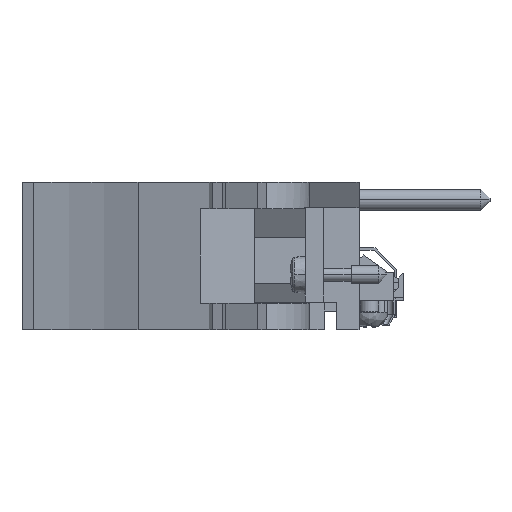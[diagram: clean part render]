
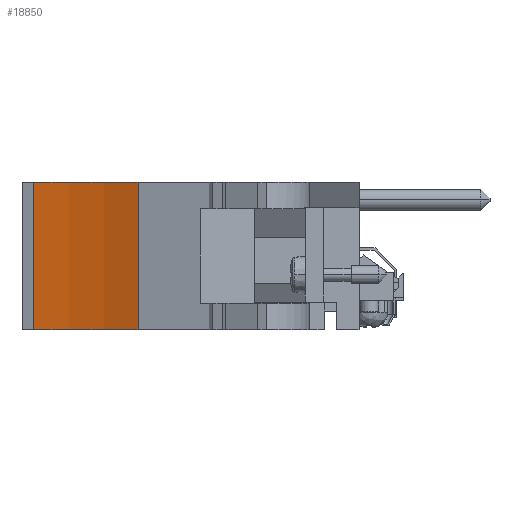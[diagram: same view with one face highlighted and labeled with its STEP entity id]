
A CAD part, front view. The second image highlights one B-rep face of the part: STEP entity #18850.
In plain terms, the highlighted cylindrical face has radius 51.46 mm (diameter 102.919 mm), a partial arc.
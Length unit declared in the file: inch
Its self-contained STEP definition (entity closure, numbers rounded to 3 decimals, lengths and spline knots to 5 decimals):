
#952=CARTESIAN_POINT('',(-1.97633,-5.95079,-0.093));
#953=DIRECTION('',(0.,0.,1.));
#954=DIRECTION('',(0.435,0.9,0.));
#955=AXIS2_PLACEMENT_3D('',#952,#953,#954);
#1157=CARTESIAN_POINT('',(-1.97633,-5.95079,0.695));
#1158=DIRECTION('',(0.,0.,1.));
#1159=DIRECTION('',(0.435,0.9,0.));
#1160=AXIS2_PLACEMENT_3D('',#1157,#1158,#1159);
#3177=DIRECTION('',(0.,0.,1.));
#3178=VECTOR('',#3177,0.788);
#3179=CARTESIAN_POINT('',(-1.09503,-4.12655,-0.093));
#3180=LINE('',#3179,#3178);
#3193=DIRECTION('',(0.,0.,1.));
#3194=VECTOR('',#3193,0.788);
#3195=CARTESIAN_POINT('',(-1.653,-3.95079,-0.093));
#3196=LINE('',#3195,#3194);
#14092=CARTESIAN_POINT('',(-1.09503,-4.12655,-0.093));
#14093=CARTESIAN_POINT('',(-1.653,-3.95079,-0.093));
#14094=VERTEX_POINT('',#14092);
#14095=VERTEX_POINT('',#14093);
#14096=CARTESIAN_POINT('',(-1.09503,-4.12655,0.695));
#14097=CARTESIAN_POINT('',(-1.653,-3.95079,0.695));
#14098=VERTEX_POINT('',#14096);
#14099=VERTEX_POINT('',#14097);
#18838=CARTESIAN_POINT('',(-1.97633,-5.95079,0.695));
#18839=DIRECTION('',(0.,0.,1.));
#18840=DIRECTION('',(0.,1.,0.));
#18841=AXIS2_PLACEMENT_3D('',#18838,#18839,#18840);
#18842=CYLINDRICAL_SURFACE('',#18841,2.02597);
#18843=ORIENTED_EDGE('',*,*,#15919,.T.);
#18845=ORIENTED_EDGE('',*,*,#18844,.T.);
#18846=ORIENTED_EDGE('',*,*,#16043,.F.);
#18847=ORIENTED_EDGE('',*,*,#18823,.F.);
#18848=EDGE_LOOP('',(#18843,#18845,#18846,#18847));
#18849=FACE_OUTER_BOUND('',#18848,.F.);
#18850=ADVANCED_FACE('',(#18849),#18842,.F.);
#956=CIRCLE('',#955,2.02597);
#1161=CIRCLE('',#1160,2.02597);
#15919=EDGE_CURVE('',#14094,#14095,#956,.T.);
#16043=EDGE_CURVE('',#14098,#14099,#1161,.T.);
#18823=EDGE_CURVE('',#14094,#14098,#3180,.T.);
#18844=EDGE_CURVE('',#14095,#14099,#3196,.T.);
